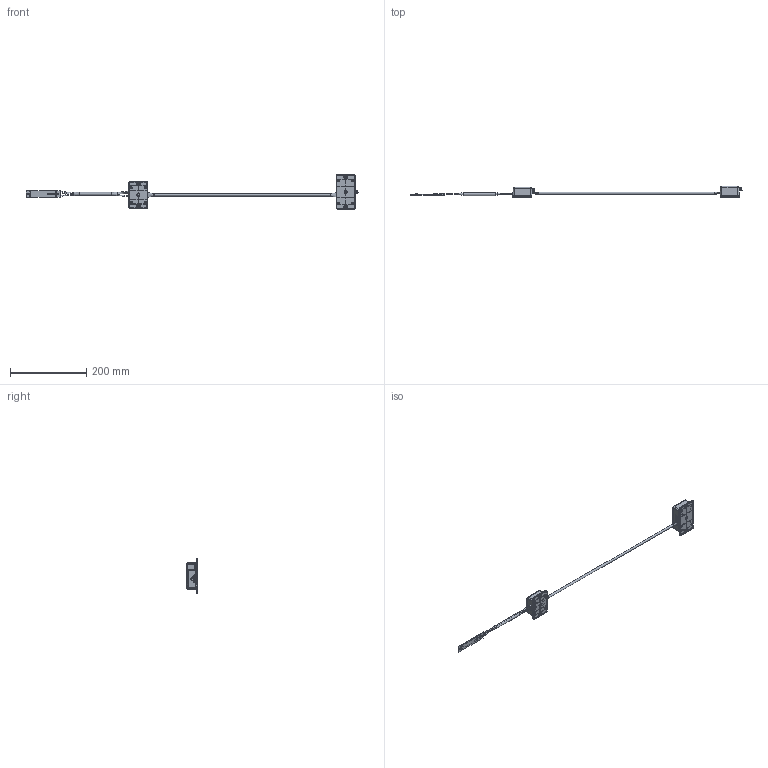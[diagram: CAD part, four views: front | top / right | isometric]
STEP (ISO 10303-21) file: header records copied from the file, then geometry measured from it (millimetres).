
FILE_DESCRIPTION(/* description */ (''),/* implementation_level */ '2;1');
FILE_NAME(/* name */ 'C:/Users/tyamada/Desktop/STEPファイル形式/30分離 v2.step',/* time_stamp */ '2021-03-01T14:32:22+09:00',/* author */ (''),/* organization */ (''),/* preprocessor_version */ 'ST-DEVELOPER v18.1',/* originating_system */ 'Autodesk Translation Framework v9.7.1.1290',/* authorisation */ '');
FILE_SCHEMA (('AUTOMOTIVE_DESIGN { 1 0 10303 214 3 1 1 }'));
Products named in the file (58): 30分離; コントロールBOX_twf5-3-7 v5; tw5-3-7; tw5-3-7(下ｶﾊﾞｰ) (1); twf5-7(ﾌﾗﾝｼﾞ); JIS B 1122 - M2 (2); 基板; S6B-PH-SM4-TB v2; S5B-PH-SM4-TB v2; DF52-20S-0.8H v1; S2B-XH-A v1; 取り付けねじ; トランス分離、一体BOX v8; トランス分離,一体BOX_t
wf5-3-5 v1; TWF5-5_フランジ (1); TWF5-X-5-01 (1); JIS B 1122 - M2 (1); アース取り付け端子; コンポーネント52; トランス分離基板 およびハーネス; 高圧ハーネス; ヒーター線; GND線; 被覆剥き線_トランス分離側; 被覆剥き線_BLADE側; コンポーネント25; 高圧線; チューブ; 収縮; F2_TM; 基板_1; ハーネスハンダ付け; F2_TO_部品 v1; S6B-PH-SM4-TB v2_1; トランス; チップ抵抗; パッド (1); コンポーネント11; コンポーネント10; アキシャル抵抗 ...
Assembly tree (77 placements, depth 7):
  30分離
    コントロールBOX_twf5-3-7 v5
      tw5-3-7
        tw5-3-7(下ｶﾊﾞｰ) (1)
        twf5-7(ﾌﾗﾝｼﾞ)
        JIS B 1122 - M2 (2)  x4
      基板
        取り付けねじ  x4
        S6B-PH-SM4-TB v2
        S5B-PH-SM4-TB v2
        DF52-20S-0.8H v1
        S2B-XH-A v1
      アース取り付け端子
        コンポーネント52
    トランス分離、一体BOX v8
      トランス分離,一体BOX_t
wf5-3-5 v1
        TWF5-5_フランジ (1)
        TWF5-X-5-01 (1)
        JIS B 1122 - M2 (1)  x4
        アース取り付け端子
          コンポーネント52
      トランス分離基板 およびハーネス
        高圧ハーネス
          ヒーター線
          GND線
          被覆剥き線_トランス分離側
          被覆剥き線_BLADE側
            コンポーネント25
          高圧線
          チューブ
            収縮  x2
        F2_TM
          基板_1
          ハーネスハンダ付け
          F2_TO_部品 v1
            S6B-PH-SM4-TB v2_1
            トランス
            チップ抵抗
              パッド (1)
              コンポーネント11
              コンポーネント10
            アキシャル抵抗
              ハンダ
              リード線  x2
        F2_TM_30
          パッド
          基板_2
          マイカ電極
    低圧ハーネス v3
      ロボットケーブル
        ロボットケーブル内部配線
          コンポーネント7
          コンポーネント9
          コンポーネント8
          コンポーネント10_1
          コンポーネント5
          コンポーネント11_1  x2
        ロボットケーブル内部配線_
1
          コンポーネント7
          コンポーネント9
Bounding box: 873.03 x 29.9 x 90.4 mm (x, y, z)
Volume: 86255.3 mm3; surface area: 97195.2 mm2
Topology: 103 solids, 103 shells, 3150 faces, 8128 edges, 5304 vertices
Faces by surface type: plane 2008, cylinder 624, bspline 210, cone 170, torus 118, sphere 20
Full cylindrical faces by diameter (mm): 0.6 x4, 1 x35, 1.4 x16, 1.478 x16, 1.5 x3, 1.933 x32, 2 x23, 2.2 x7, 2.6 x8, 2.9 x8, 3 x3, 3.002 x4, 3.5 x10, 4 x16, 4.5 x8, 5 x12, 5.2 x8, 5.4 x8, 6 x4, 6.5 x1, 7 x6, 7.351 x6, 7.9 x1, 7.927 x10, 8 x2
Entity records: 92352 total; most frequent: CARTESIAN_POINT 23359, ORIENTED_EDGE 14230, DIRECTION 13359, EDGE_CURVE 7115, LINE 5281, VECTOR 5281, VERTEX_POINT 4644, AXIS2_PLACEMENT_3D 4039
